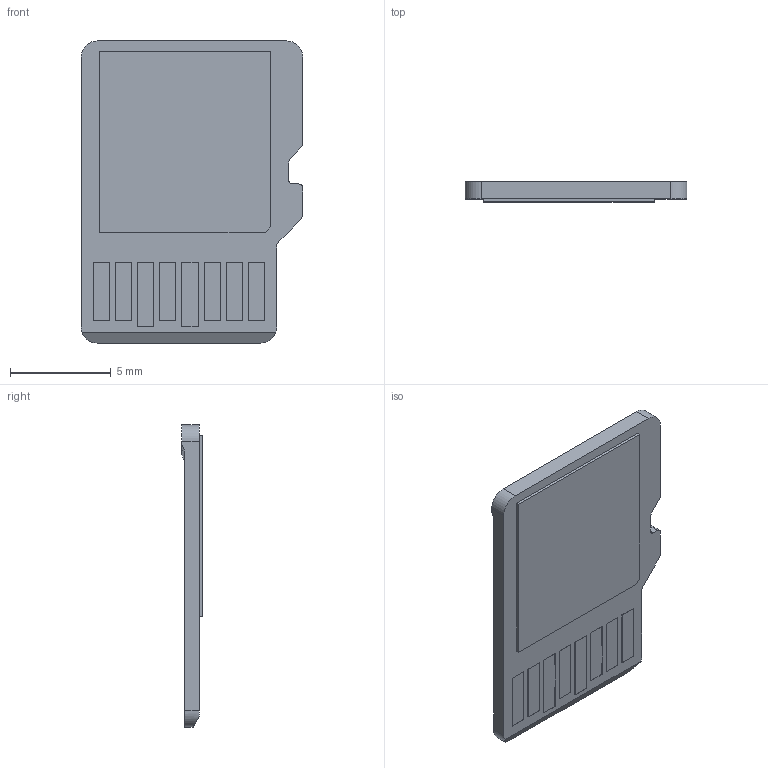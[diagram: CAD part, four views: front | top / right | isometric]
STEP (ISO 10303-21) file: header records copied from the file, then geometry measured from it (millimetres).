
FILE_DESCRIPTION((''),'2;1');
FILE_NAME('MICROSD-CARD_1_PRT','2008-06-30T',('GRA'),(''),'PRO/ENGINEER BY PARAMETRIC TECHNOLOGY CORPORATION, 2006170','PRO/ENGINEER BY PARAMETRIC TECHNOLOGY CORPORATION, 2006170','');
FILE_SCHEMA(('CONFIG_CONTROL_DESIGN'));
Length unit declared in the file: millimetre
Products named in the file (1): MICROSD-CARD_1_PRT
Bounding box: 11 x 1 x 15 mm (x, y, z)
Volume: 122.6 mm3; surface area: 354.6 mm2
Topology: 1 solids, 1 shells, 509 faces, 1434 edges, 956 vertices
Faces by surface type: plane 497, cylinder 9, torus 2, cone 1
Entity records: 16177 total; most frequent: CARTESIAN_POINT 2944, ORIENTED_EDGE 2868, DIRECTION 2466, EDGE_CURVE 1434, VECTOR 1404, LINE 1404, VERTEX_POINT 956, EDGE_LOOP 538
